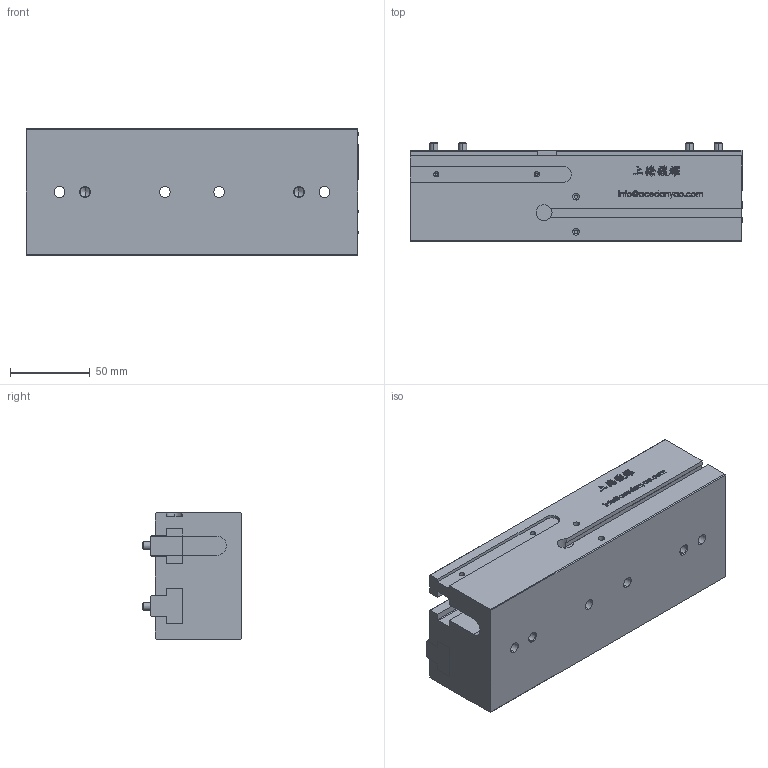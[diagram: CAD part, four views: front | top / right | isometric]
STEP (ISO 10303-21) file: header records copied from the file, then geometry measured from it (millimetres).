
FILE_DESCRIPTION (( 'STEP AP203' ), '1' );
FILE_NAME ('GPL25-80-原始檔-組合-W106.04.17.STEP', '2017-04-17T08:49:28', ( 'DanyaoCAD' ), ( '' ), 'SwSTEP 2.0', 'SolidWorks 2016', '' );
FILE_SCHEMA (( 'CONFIG_CONTROL_DESIGN' ));
Length unit declared in the file: millimetre
Products named in the file (3): Corpo; GPL25-80-原始檔-組合-W106.04.17; Griffa
Assembly tree (3 placements, depth 2):
  GPL25-80-原始檔-組合-W106.04.17
    Griffa  x2
    Corpo
Bounding box: 208 x 62 x 79 mm (x, y, z)
Volume: 788332.6 mm3; surface area: 123931 mm2
Topology: 3 solids, 3 shells, 1001 faces, 2773 edges, 1826 vertices
Faces by surface type: bspline 640, plane 259, cylinder 66, cone 36
Entity records: 46890 total; most frequent: CARTESIAN_POINT 26475, ORIENTED_EDGE 5286, EDGE_CURVE 2643, DIRECTION 2129, VERTEX_POINT 1753, B_SPLINE_CURVE_WITH_KNOTS 1280, VECTOR 1235, LINE 1235
